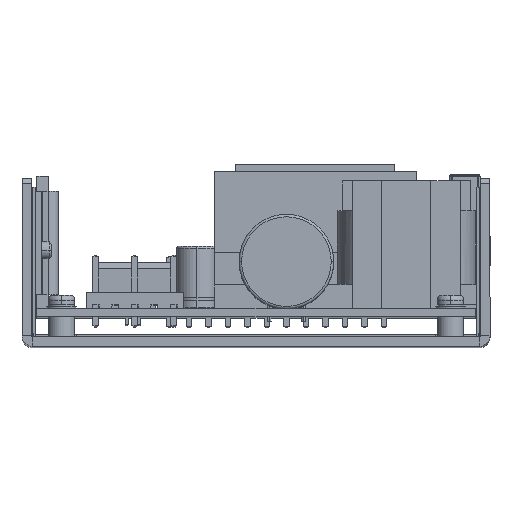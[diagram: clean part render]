
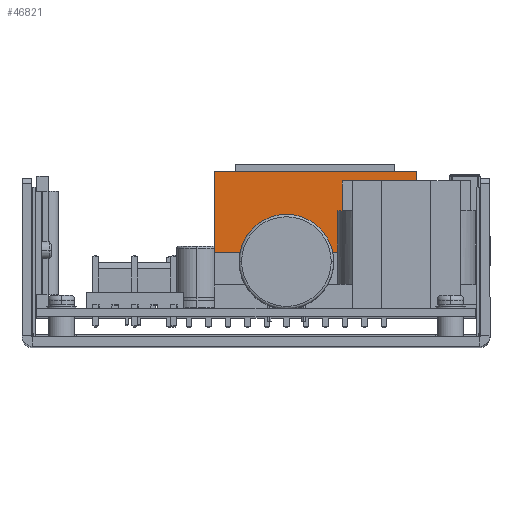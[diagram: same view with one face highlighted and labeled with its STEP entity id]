
A CAD part, top view. The second image highlights one B-rep face of the part: STEP entity #46821.
In plain terms, the highlighted planar face has unit normal (0, 0, 1) as drawn and (-1, 0, 0) by its records, which use the part's own axes.
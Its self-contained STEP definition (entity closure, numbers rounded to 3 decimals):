
#1572 = VECTOR ( 'NONE', #31406, 1000. ) ;
#2679 = DIRECTION ( 'NONE',  ( 0., -1., 0. ) ) ;
#3283 = CARTESIAN_POINT ( 'NONE',  ( -22.65, 28., 20.5 ) ) ;
#13799 = VECTOR ( 'NONE', #2679, 1000. ) ;
#13835 = CARTESIAN_POINT ( 'NONE',  ( -22.65, 11.5, -20.5 ) ) ;
#14093 = VERTEX_POINT ( 'NONE', #25969 ) ;
#16337 = ORIENTED_EDGE ( 'NONE', *, *, #32023, .F. ) ;
#16839 = CARTESIAN_POINT ( 'NONE',  ( -22.65, 28., 20.5 ) ) ;
#17282 = LINE ( 'NONE', #21023, #13799 ) ;
#17866 = EDGE_LOOP ( 'NONE', ( #21548, #16337, #30990, #31660 ) ) ;
#19420 = CARTESIAN_POINT ( 'NONE',  ( -22.65, 28., -20.5 ) ) ;
#20441 = EDGE_CURVE ( 'NONE', #35682, #30419, #34678, .T. ) ;
#20676 = DIRECTION ( 'NONE',  ( 1., 0., 0. ) ) ;
#21023 = CARTESIAN_POINT ( 'NONE',  ( -22.65, 28., 20.5 ) ) ;
#21178 = LINE ( 'NONE', #16839, #1572 ) ;
#21548 = ORIENTED_EDGE ( 'NONE', *, *, #20441, .T. ) ;
#23160 = DIRECTION ( 'NONE',  ( 0., -1., 0. ) ) ;
#25433 = CARTESIAN_POINT ( 'NONE',  ( -22.65, 11.5, 20.5 ) ) ;
#25969 = CARTESIAN_POINT ( 'NONE',  ( -22.65, 11.5, 20.5 ) ) ;
#25996 = VECTOR ( 'NONE', #23160, 1000. ) ;
#26094 = VECTOR ( 'NONE', #32851, 1000. ) ;
#27681 = FACE_OUTER_BOUND ( 'NONE', #17866, .T. ) ;
#30419 = VERTEX_POINT ( 'NONE', #13835 ) ;
#30990 = ORIENTED_EDGE ( 'NONE', *, *, #33623, .F. ) ;
#31406 = DIRECTION ( 'NONE',  ( 0., 0., -1. ) ) ;
#31660 = ORIENTED_EDGE ( 'NONE', *, *, #35277, .T. ) ;
#32023 = EDGE_CURVE ( 'NONE', #14093, #30419, #34792, .T. ) ;
#32388 = AXIS2_PLACEMENT_3D ( 'NONE', #46412, #20676, #46574 ) ;
#32851 = DIRECTION ( 'NONE',  ( 0., 0., -1. ) ) ;
#33623 = EDGE_CURVE ( 'NONE', #44685, #14093, #17282, .T. ) ;
#34678 = LINE ( 'NONE', #19420, #25996 ) ;
#34792 = LINE ( 'NONE', #25433, #26094 ) ;
#35277 = EDGE_CURVE ( 'NONE', #44685, #35682, #21178, .T. ) ;
#35410 = CARTESIAN_POINT ( 'NONE',  ( -22.65, 28., -20.5 ) ) ;
#35423 = PLANE ( 'NONE',  #32388 ) ;
#35682 = VERTEX_POINT ( 'NONE', #35410 ) ;
#44685 = VERTEX_POINT ( 'NONE', #3283 ) ;
#46412 = CARTESIAN_POINT ( 'NONE',  ( -22.65, 28., 20.5 ) ) ;
#46574 = DIRECTION ( 'NONE',  ( 0., 1., 0. ) ) ;
#46821 = ADVANCED_FACE ( 'NONE', ( #27681 ), #35423, .F. ) ;
